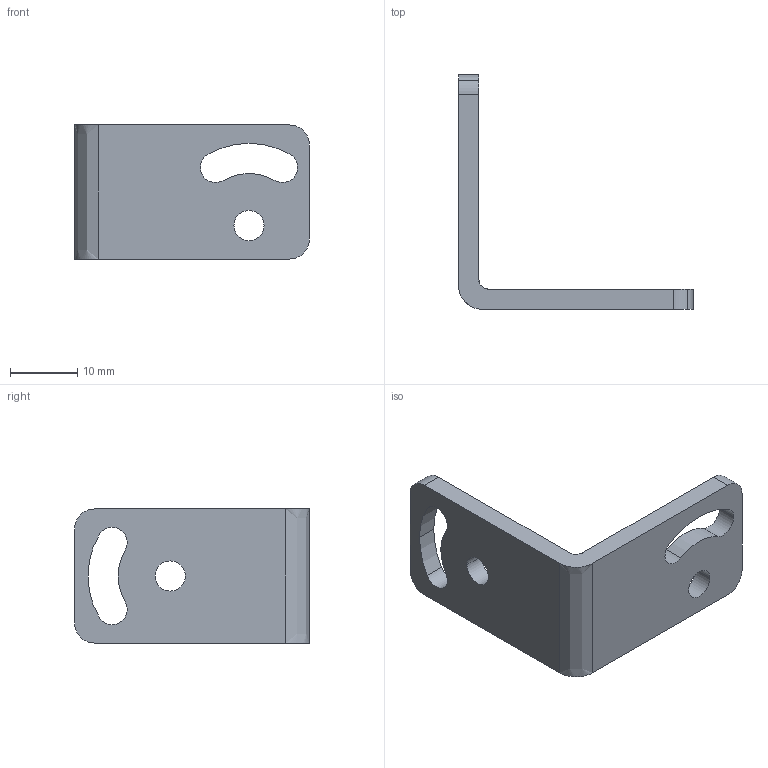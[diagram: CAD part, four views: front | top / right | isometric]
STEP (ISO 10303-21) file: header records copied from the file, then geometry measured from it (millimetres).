
FILE_DESCRIPTION((''),'2;1');
FILE_NAME('15300600_MA45L.stp','2008-01-21T13:29:42',(''),(''),'Mechanical Desktop.R8.0.24.0','Mechanical Desktop.R8.0.24.0',', , ');
FILE_SCHEMA(('CONFIG_CONTROL_DESIGN'));
Length unit declared in the file: millimetre
Products named in the file (2): 04113223; TEIL1
Assembly tree (1 placements, depth 2):
  04113223
    TEIL1
Bounding box: 35 x 35 x 20 mm (x, y, z)
Volume: 3478.2 mm3; surface area: 3103.7 mm2
Topology: 1 solids, 1 shells, 36 faces, 102 edges, 68 vertices
Faces by surface type: cylinder 26, plane 8, bspline 2
Entity records: 1545 total; most frequent: CARTESIAN_POINT 454, DIRECTION 218, ORIENTED_EDGE 204, EDGE_CURVE 102, AXIS2_PLACEMENT_3D 88, VERTEX_POINT 68, CIRCLE 52, EDGE_LOOP 44
